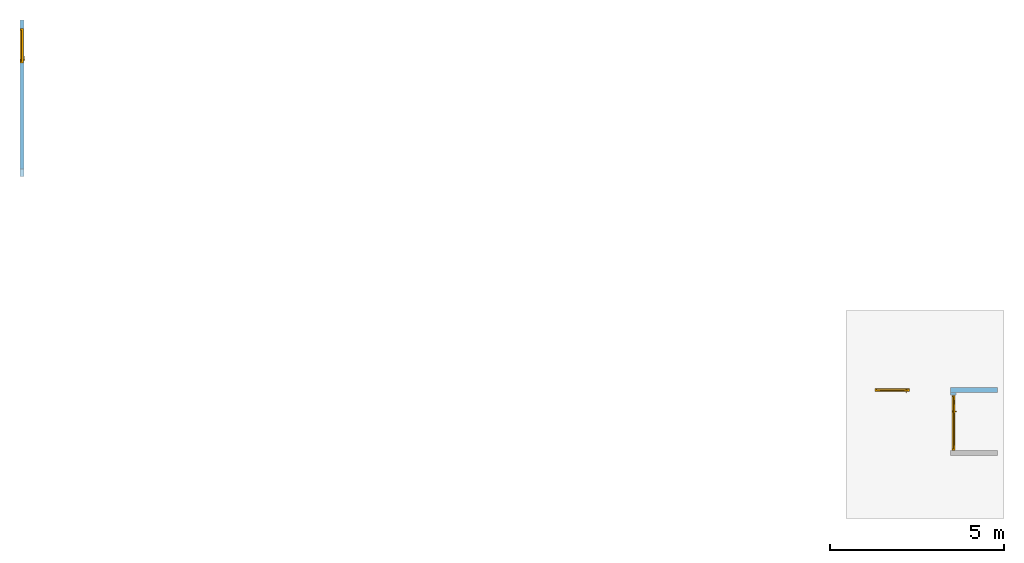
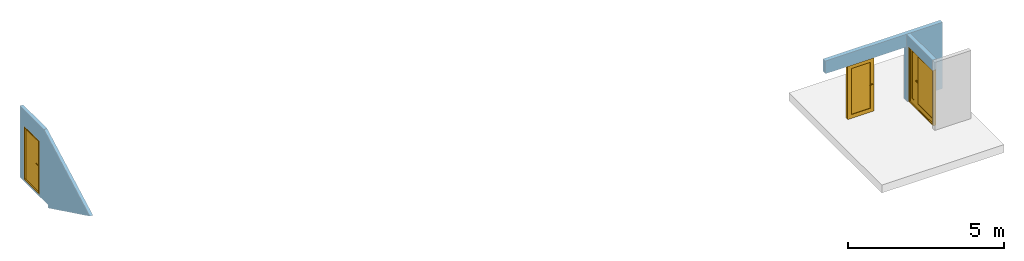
"""IFC2X3 building model written with IfcOpenShell, lengths in millimetres."""

import ifcopenshell
import ifcopenshell.guid

model = None  # the IFC model being written
_history = None  # IfcOwnerHistory: only IFC2X3 demands one
_inside = {}  # id of a spatial element -> (the spatial element, [elements in it])
_under = {}  # id of a project, library or spatial element -> (it, [spatial elements below it])
_declared = {}  # id of a project -> (the project, [libraries it declares])
_typed = {}  # id of a type object -> (the type object, [elements of that type])
_made_of = {}  # id of a material, layer set ... -> (it, [elements and type objects made of it])


def new_model(schema):
    """Start an empty IFC model of exactly this schema.

    Asked for "IFC4X3", IfcOpenShell would pick the latest addendum, in which some entities
    have other attributes; the version numbers below select the first issue.
    IFC2X3 requires an IfcOwnerHistory on every rooted entity: one is made here for all.
    """
    global model, _history
    if schema == "IFC4X3":
        model = ifcopenshell.file(schema_version=(4, 3, 0, 0))
    else:
        model = ifcopenshell.file(schema=schema)
    _inside.clear()
    _under.clear()
    _declared.clear()
    _typed.clear()
    _made_of.clear()
    _history = None
    if model.schema == "IFC2X3":
        org = make("IfcOrganization", Name="unknown")
        user = make(
            "IfcPersonAndOrganization",
            ThePerson=make("IfcPerson", FamilyName="unknown"),
            TheOrganization=org,
        )
        app = make(
            "IfcApplication",
            ApplicationDeveloper=org,
            Version="unknown",
            ApplicationFullName="unknown",
            ApplicationIdentifier="unknown",
        )
        _history = make(
            "IfcOwnerHistory",
            OwningUser=user,
            OwningApplication=app,
            ChangeAction="ADDED",
            CreationDate=0,
        )
    return model


def make(cls, **values):
    """One entity of the class cls with the attributes given. An attribute that is None is left unset."""
    return model.create_entity(
        cls, **{name: value for name, value in values.items() if value is not None}
    )


def entity(cls, *values):
    """Any entity or typed value of the class cls, its attributes in the order of the schema. None: left unset."""
    e = model.create_entity(cls)
    for i, value in enumerate(values):
        if value is not None:
            e[i] = value
    return e


def rooted(cls, **values):
    """An entity with a GlobalId (a new one), such as an element, a storey or a relation."""
    return make(cls, GlobalId=ifcopenshell.guid.new(), OwnerHistory=_history, **values)


def si_unit(unit_type, name, prefix=None):
    """IfcSIUnit, for example si_unit("LENGTHUNIT", "METRE", prefix="MILLI")."""
    return make("IfcSIUnit", UnitType=unit_type, Prefix=prefix, Name=name)


def converted_unit(unit_type, name, factor, base, dimensions=None, offset=None):
    """IfcConversionBasedUnit, such as the inch: factor (a typed value) times the base unit."""
    return make(
        "IfcConversionBasedUnit"
        if offset is None
        else "IfcConversionBasedUnitWithOffset",
        ConversionOffset=offset,
        Dimensions=None
        if dimensions is None
        else entity("IfcDimensionalExponents", *dimensions),
        UnitType=unit_type,
        Name=name,
        ConversionFactor=make(
            "IfcMeasureWithUnit", ValueComponent=factor, UnitComponent=base
        ),
    )


def derived_unit(unit_type, elements):
    """IfcDerivedUnit: a product of units, each with its exponent."""
    return make(
        "IfcDerivedUnit",
        Elements=[
            make("IfcDerivedUnitElement", Unit=unit, Exponent=power)
            for unit, power in elements
        ],
        UnitType=unit_type,
    )


def assignment(units):
    """IfcUnitAssignment: the units of a project."""
    return None if units is None else make("IfcUnitAssignment", Units=units)


def point(xyz):
    """IfcCartesianPoint."""
    return None if xyz is None else make("IfcCartesianPoint", Coordinates=xyz)


def direction(xyz):
    """IfcDirection."""
    return None if xyz is None else make("IfcDirection", DirectionRatios=xyz)


def frame(location, z_axis=None, x_axis=None):
    """IfcAxis2Placement3D, a coordinate frame: its origin and axes. An axis left out is left unset."""
    return make(
        "IfcAxis2Placement3D",
        Location=point(location),
        Axis=direction(z_axis),
        RefDirection=direction(x_axis),
    )


def frame_2d(location, x_axis=None):
    """IfcAxis2Placement2D, a coordinate frame in the plane: its origin and x axis."""
    return make(
        "IfcAxis2Placement2D", Location=point(location), RefDirection=direction(x_axis)
    )


def origin():
    """The frame at (0, 0, 0) with its axes left unset."""
    return frame((0.0, 0.0, 0.0))


def place(relative_to, where):
    """IfcLocalPlacement: puts the frame where relative to a parent placement (None: the world)."""
    return make(
        "IfcLocalPlacement", PlacementRelTo=relative_to, RelativePlacement=where
    )


def context(
    kind, dimensions, precision=None, world=None, true_north=None, identifier=None
):
    """IfcGeometricRepresentationContext, for example the 3D "Model" context."""
    return make(
        "IfcGeometricRepresentationContext",
        ContextIdentifier=identifier,
        ContextType=kind,
        CoordinateSpaceDimension=dimensions,
        Precision=precision,
        WorldCoordinateSystem=world,
        TrueNorth=true_north,
    )


def subcontext(parent, identifier, kind, view, scale=None):
    """IfcGeometricRepresentationSubContext, for example "Body" below "Model"."""
    return make(
        "IfcGeometricRepresentationSubContext",
        ContextIdentifier=identifier,
        ContextType=kind,
        ParentContext=parent,
        TargetScale=scale,
        TargetView=view,
    )


def project(units=None, contexts=None):
    """IfcProject with its units and contexts."""
    return rooted(
        "IfcProject",
        Name="project",
        RepresentationContexts=contexts,
        UnitsInContext=assignment(units),
    )


def spatial(cls, under=None, at=None, **own):
    """A site, building, storey or space (cls), placed at a placement, below another one or the project."""
    s = rooted(cls, ObjectPlacement=at, **own)
    if under is not None:
        _under.setdefault(under.id(), (under, []))[1].append(s)
    return s


def polyline(points):
    """IfcPolyline through the points."""
    return make("IfcPolyline", Points=[point(p) for p in points])


def profile(cls, at=None, kind="AREA", **sizes):
    """A parametric profile (cls). Its sizes go by their IFC names, for example OverallWidth=200.0."""
    return make(cls, ProfileType=kind, Position=at, **sizes)


def rectangle(**sizes):
    """IfcRectangleProfileDef."""
    return profile("IfcRectangleProfileDef", **sizes)


def outline(outer, holes=None, kind="AREA"):
    """IfcArbitraryClosedProfileDef: a profile drawn as a closed curve; with holes, ...WithVoids."""
    if holes is None:
        return make("IfcArbitraryClosedProfileDef", ProfileType=kind, OuterCurve=outer)
    return make(
        "IfcArbitraryProfileDefWithVoids",
        ProfileType=kind,
        OuterCurve=outer,
        InnerCurves=holes,
    )


def extrude(swept, where, along, depth):
    """IfcExtrudedAreaSolid: the profile swept, set in the frame where, extruded along a direction by depth."""
    return make(
        "IfcExtrudedAreaSolid",
        SweptArea=swept,
        Position=where,
        ExtrudedDirection=direction(along),
        Depth=depth,
    )


def clip(a, b, op="DIFFERENCE"):
    """IfcBooleanClippingResult: the solid a cut by the half space b."""
    return make(
        "IfcBooleanClippingResult", Operator=op, FirstOperand=a, SecondOperand=b
    )


def halfspace(plane, agree):
    """IfcHalfSpaceSolid: all space on one side of the plane z = 0 of the frame plane."""
    return make(
        "IfcHalfSpaceSolid",
        BaseSurface=make("IfcPlane", Position=plane),
        AgreementFlag=agree,
    )


def faces_of(points, faces, orient=None, outer=None):
    """IfcFace entities. A face is a list of loops; a loop is a list of indices into points, from 0.

    orient and outer hold one flag for each loop. By default every Orientation is true, the
    first loop of a face is its IfcFaceOuterBound and the others are IfcFaceBound.
    """
    made = []
    for i, loops in enumerate(faces):
        bounds = []
        for j, loop in enumerate(loops):
            is_outer = j == 0 if outer is None else outer[i][j]
            bounds.append(
                make(
                    "IfcFaceOuterBound" if is_outer else "IfcFaceBound",
                    Bound=make("IfcPolyLoop", Polygon=[points[k] for k in loop]),
                    Orientation=True if orient is None else orient[i][j],
                )
            )
        made.append(make("IfcFace", Bounds=bounds))
    return made


def faceted_brep(points, faces, orient=None, outer=None, voids=None):
    """IfcFacetedBrep: a solid bounded by flat faces; with voids (closed shells), ...WithVoids."""
    shared = [point(p) for p in points]
    hull = make("IfcClosedShell", CfsFaces=faces_of(shared, faces, orient, outer))
    if voids is None:
        return make("IfcFacetedBrep", Outer=hull)
    return make(
        "IfcFacetedBrepWithVoids",
        Outer=hull,
        Voids=[
            make(cls, CfsFaces=faces_of(shared, fs, o, b)) for cls, fs, o, b in voids
        ],
    )


def shape(context_of_items, identifier, shape_type, items):
    """IfcShapeRepresentation: the items that make up one representation, for example the "Body"."""
    return make(
        "IfcShapeRepresentation",
        ContextOfItems=context_of_items,
        RepresentationIdentifier=identifier,
        RepresentationType=shape_type,
        Items=items,
    )


def source(mapping_origin, context_of_items, identifier, shape_type, items):
    """IfcRepresentationMap: a shape defined once, which mapped items show again and again."""
    return make(
        "IfcRepresentationMap",
        MappingOrigin=mapping_origin,
        MappedRepresentation=shape(context_of_items, identifier, shape_type, items),
    )


def transform(
    local_origin,
    x_axis=None,
    y_axis=None,
    z_axis=None,
    scale=None,
    scale2=None,
    scale3=None,
    uniform=True,
):
    """IfcCartesianTransformationOperator3D, or its non-uniform kind. x_axis, y_axis, z_axis: its Axis1, 2, 3."""
    if uniform:
        return make(
            "IfcCartesianTransformationOperator3D",
            Axis1=direction(x_axis),
            Axis2=direction(y_axis),
            LocalOrigin=point(local_origin),
            Scale=scale,
            Axis3=direction(z_axis),
        )
    return make(
        "IfcCartesianTransformationOperator3DnonUniform",
        Axis1=direction(x_axis),
        Axis2=direction(y_axis),
        LocalOrigin=point(local_origin),
        Scale=scale,
        Axis3=direction(z_axis),
        Scale2=scale2,
        Scale3=scale3,
    )


def mapped(mapping_source, mapping_target):
    """IfcMappedItem: shows the shape of a source again, moved by a transform."""
    return make(
        "IfcMappedItem", MappingSource=mapping_source, MappingTarget=mapping_target
    )


def material(Name=None, Category=None):
    """IfcMaterial."""
    return make("IfcMaterial", Name=Name, Category=Category)


def material_list(materials):
    """IfcMaterialList."""
    return make("IfcMaterialList", Materials=materials)


def layer(
    of_material, thickness, ventilated=None, Name=None, Category=None, Priority=None
):
    """IfcMaterialLayer: one layer of a wall or slab, of a material (None: an air gap)."""
    return make(
        "IfcMaterialLayer",
        Material=of_material,
        LayerThickness=thickness,
        IsVentilated=ventilated,
        Name=Name,
        Category=Category,
        Priority=Priority,
    )


def layer_set(layers, Name=None):
    """IfcMaterialLayerSet."""
    return make("IfcMaterialLayerSet", MaterialLayers=layers, LayerSetName=Name)


def layer_usage(for_layer_set, set_direction, sense, offset, extent=None):
    """IfcMaterialLayerSetUsage: how a layer set lies in its element."""
    return make(
        "IfcMaterialLayerSetUsage",
        ForLayerSet=for_layer_set,
        LayerSetDirection=set_direction,
        DirectionSense=sense,
        OffsetFromReferenceLine=offset,
        ReferenceExtent=extent,
    )


def made_of(thing, what):
    """Note that an element or type object is made of a material, layer set ...; save() writes the relation."""
    if what is not None:
        _made_of.setdefault(what.id(), (what, []))[1].append(thing)
    return thing


def type_object(cls, material=None, **own):
    """A type object (cls), such as IfcWallType, which elements share."""
    return made_of(rooted(cls, **own), material)


def type_shapes(of_type, sources):
    """Give a type object the sources (RepresentationMaps) that its elements show as mapped items."""
    of_type.RepresentationMaps = sources


def element(
    cls,
    number,
    at=None,
    inside=None,
    cuts=None,
    type_object=None,
    material=None,
    context=None,
    identifier="Body",
    shape_type=None,
    held_by="IfcProductDefinitionShape",
    body=None,
    shapes=None,
    **own,
):
    """One element of the class cls, such as IfcWall. Its Tag is "e" and its number.

    at: its placement. inside: the storey or other place that contains it. cuts: it is an
    opening in that element (IfcRelVoidsElement). A single representation is given by context,
    identifier, shape_type and body (its items); several are given by shapes. held_by: the class
    of the entity that holds the representations. save() writes the other relations.
    """
    e = rooted(cls, Tag="e%d" % number, ObjectPlacement=at, **own)
    if body is not None:
        shapes = [shape(context, identifier, shape_type, body)]
    if shapes is not None:
        e.Representation = make(held_by, Representations=shapes)
    if inside is not None:
        _inside.setdefault(inside.id(), (inside, []))[1].append(e)
    if cuts is not None:
        rooted(
            "IfcRelVoidsElement", RelatingBuildingElement=cuts, RelatedOpeningElement=e
        )
    if type_object is not None:
        _typed.setdefault(type_object.id(), (type_object, []))[1].append(e)
    return made_of(e, material)


def fill(opening, filler):
    """IfcRelFillsElement: the door or window that sits in an opening."""
    return rooted(
        "IfcRelFillsElement",
        RelatingOpeningElement=opening,
        RelatedBuildingElement=filler,
    )


def aggregate(whole, parts):
    """IfcRelAggregates: a whole, such as a stair, and the parts it consists of."""
    return rooted("IfcRelAggregates", RelatingObject=whole, RelatedObjects=parts)


def save(model, path):
    """Write the relations noted so far, then the file.

    IfcRelAggregates (storeys below a building ...), IfcRelContainedInSpatialStructure (elements
    in a storey), IfcRelDefinesByType, IfcRelAssociatesMaterial and IfcRelDeclares: one each for
    every whole, place, type object, material and project.
    """
    for whole, parts in _under.values():
        aggregate(whole, parts)
    for where, things in _inside.values():
        rooted(
            "IfcRelContainedInSpatialStructure",
            RelatedElements=things,
            RelatingStructure=where,
        )
    for kind, things in _typed.values():
        rooted("IfcRelDefinesByType", RelatedObjects=things, RelatingType=kind)
    for what, things in _made_of.values():
        rooted("IfcRelAssociatesMaterial", RelatedObjects=things, RelatingMaterial=what)
    for by, libraries in _declared.values():
        rooted("IfcRelDeclares", RelatingContext=by, RelatedDefinitions=libraries)
    model.write(path)


model = new_model("IFC2X3")

# Units and contexts
model_context = context("Model", 3, precision=0.01, world=origin(), true_north=direction((6.12303176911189e-17, 1.0)))
body_context = subcontext(model_context, "Body", "Model", "MODEL_VIEW")
ifc_project = project(units=[si_unit("LENGTHUNIT", "METRE", prefix="MILLI"), si_unit("AREAUNIT", "SQUARE_METRE"), si_unit("VOLUMEUNIT", "CUBIC_METRE"), converted_unit("PLANEANGLEUNIT", "DEGREE", entity("IfcRatioMeasure", 0.0174532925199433), si_unit("PLANEANGLEUNIT", "RADIAN"), dimensions=[0, 0, 0, 0, 0, 0, 0]), si_unit("MASSUNIT", "GRAM", prefix="KILO"), derived_unit("MASSDENSITYUNIT", [(si_unit("MASSUNIT", "GRAM", prefix="KILO"), 1), (si_unit("LENGTHUNIT", "METRE"), -3)]), si_unit("TIMEUNIT", "SECOND"), si_unit("FREQUENCYUNIT", "HERTZ"), si_unit("THERMODYNAMICTEMPERATUREUNIT", "DEGREE_CELSIUS"), derived_unit("THERMALTRANSMITTANCEUNIT", [(si_unit("MASSUNIT", "GRAM", prefix="KILO"), 1), (si_unit("THERMODYNAMICTEMPERATUREUNIT", "KELVIN"), -1), (si_unit("TIMEUNIT", "SECOND"), -3)]), derived_unit("VOLUMETRICFLOWRATEUNIT", [(si_unit("LENGTHUNIT", "METRE"), 3), (si_unit("TIMEUNIT", "SECOND"), -1)]), si_unit("ELECTRICCURRENTUNIT", "AMPERE"), si_unit("ELECTRICVOLTAGEUNIT", "VOLT"), si_unit("POWERUNIT", "WATT"), si_unit("FORCEUNIT", "NEWTON", prefix="KILO"), si_unit("ILLUMINANCEUNIT", "LUX"), si_unit("LUMINOUSFLUXUNIT", "LUMEN"), si_unit("LUMINOUSINTENSITYUNIT", "CANDELA"), derived_unit("USERDEFINED", [(si_unit("MASSUNIT", "GRAM", prefix="KILO"), -1), (si_unit("LENGTHUNIT", "METRE"), -2), (si_unit("TIMEUNIT", "SECOND"), 3), (si_unit("LUMINOUSFLUXUNIT", "LUMEN"), 1)]), derived_unit("LINEARVELOCITYUNIT", [(si_unit("LENGTHUNIT", "METRE"), 1), (si_unit("TIMEUNIT", "SECOND"), -1)]), si_unit("PRESSUREUNIT", "PASCAL"), derived_unit("USERDEFINED", [(si_unit("LENGTHUNIT", "METRE"), -2), (si_unit("MASSUNIT", "GRAM", prefix="KILO"), 1), (si_unit("TIMEUNIT", "SECOND"), -2)]), derived_unit("LINEARFORCEUNIT", [(si_unit("MASSUNIT", "GRAM", prefix="KILO"), 1), (si_unit("LENGTHUNIT", "METRE"), 1), (si_unit("TIMEUNIT", "SECOND"), -2), (si_unit("LENGTHUNIT", "METRE"), -1)]), derived_unit("PLANARFORCEUNIT", [(si_unit("MASSUNIT", "GRAM", prefix="KILO"), 1), (si_unit("LENGTHUNIT", "METRE"), 1), (si_unit("TIMEUNIT", "SECOND"), -2), (si_unit("LENGTHUNIT", "METRE"), -2)])], contexts=[model_context])

# Site, building, storey
site_placement = place(None, origin())
site = spatial("IfcSite", under=ifc_project, at=site_placement, Name="Default", CompositionType="ELEMENT")
building_placement = place(site_placement, origin())
building = spatial("IfcBuilding", under=site, at=building_placement, Name="SMA ARH", CompositionType="ELEMENT")
storey_1_placement = place(building_placement, frame((0.0, 0.0, -1270.0)))
storey_1 = spatial("IfcBuildingStorey", under=building, at=storey_1_placement, Name="Sissepääs", CompositionType="ELEMENT", Elevation=-1270.0)

# Wall, openings
ifc_material_1 = material(Name="EST. Ehitusplaat. Kipsplaat")
ifc_layer_1 = layer(ifc_material_1, 12.5)
ifc_layer_2 = layer(ifc_material_1, 12.5)
ifc_material_2 = material(Name="EST. Soojustus. Mineraalvill. Default")
ifc_layer_3 = layer(ifc_material_2, 66.0)
ifc_layer_4 = layer(ifc_material_1, 12.5)
ifc_layer_5 = layer(ifc_material_1, 12.5)
ifc_layer_set_1 = layer_set([ifc_layer_1, ifc_layer_2, ifc_layer_3, ifc_layer_4, ifc_layer_5], Name="Basic Wall:SS-05_Kips, 66mm metallkarkass")
ifc_layer_usage_1 = layer_usage(ifc_layer_set_1, "AXIS2", "NEGATIVE", 58.0)
wall_type_1 = type_object("IfcWallType", Name="Basic Wall:SS-05_Kips, 66mm metallkarkass", PredefinedType="STANDARD", material=ifc_layer_set_1)
wall_1_placement = place(storey_1_placement, frame((10221.1462417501, 14300.5336182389, -246.31669515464), z_axis=(0.0, 0.0, 1.0), x_axis=(0.0, -1.0, 0.0)))
wall_1 = element("IfcWallStandardCase", 1, at=wall_1_placement, inside=storey_1, type_object=wall_type_1, material=ifc_layer_usage_1, Name="Basic Wall:SS-05_Kips, 66mm metallkarkass", ObjectType="Basic Wall:SS-05_Kips, 66mm metallkarkass", context=body_context, shape_type="Clipping", body=[
    clip(clip(clip(extrude(rectangle(XDim=4483.62214650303, YDim=116.0, at=frame_2d((2241.81107325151, 5.47117906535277e-13), x_axis=(-1.0, 0.0))), origin(), (0.0, 0.0, 1.0), 2916.31669515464), halfspace(frame((4483.62214650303, -58.0, 1302.14186309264), z_axis=(0.437919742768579, 0.0, -0.899014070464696), x_axis=(0.0, 1.0, 0.0)), False)), halfspace(frame((1541.70566141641, -58.0, 2916.31669515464), z_axis=(0.481030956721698, 0.0, 0.87670360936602), x_axis=(0.0, 1.0, 0.0)), False)), halfspace(frame((1810.42945311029, 0.0, 0.0), z_axis=(-0.0641159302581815, 0.0, -0.99794245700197), x_axis=(0.0, -1.0, 0.0)), False)),
])
opening_1_placement = place(wall_1_placement, origin())
element("IfcOpeningElement", 2, at=opening_1_placement, cuts=wall_1, Name="Basic Wall:SS-05_Kips, 66mm metallkarkass", ObjectType="Opening", context=body_context, shape_type="SweptSolid", body=[
    extrude(outline(polyline([(-77.5444634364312, -603.476484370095), (38.7722317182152, -603.476484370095), (38.7722317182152, 1206.95296874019), (-77.5444634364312, -603.476484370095)])), frame((1206.95296874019, 58.0, 77.5444634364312), z_axis=(0.0, -1.0, 0.0), x_axis=(0.0, 0.0, 1.0)), (0.0, 0.0, 1.0), 116.0),
])
opening_2_placement = place(wall_1_placement, frame((240.529038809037, -58.0, 176.316695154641)))
opening_2 = element("IfcOpeningElement", 3, at=opening_2_placement, cuts=wall_1, Name="SMA_D01, 1-poolne:SU-M-02 - 1000x2100 EI-30:1", ObjectType="Opening", context=body_context, shape_type="SweptSolid", body=[
    extrude(rectangle(XDim=2099.99999999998, YDim=1000.0, at=frame_2d((1049.99999999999, 500.0), x_axis=(1.0, 0.0))), frame((0.0, 0.0, 0.0), z_axis=(0.0, 1.0, 0.0), x_axis=(0.0, 0.0, 1.0)), (0.0, 0.0, 1.0), 116.0),
])

# Storey
storey_2_placement = place(building_placement, origin())
storey_2 = spatial("IfcBuildingStorey", under=building, at=storey_2_placement, Name="1 Korrus", CompositionType="ELEMENT", Elevation=0.0)

# Door
ifc_material_3 = material(Name="EST. Metall. Alumiinium. Värvitud. RAL7023 (Concrete grey)")
ifc_material_4 = material(Name="<Unnamed>")
ifc_material_5 = material(Name="EST. Klaas. 3x. Default")
ifc_material_list_1 = material_list([ifc_material_3, ifc_material_4, ifc_material_4, ifc_material_3, ifc_material_5, ifc_material_3, ifc_material_4])
door_style_1 = type_object("IfcDoorStyle", Name="SMA_D01, 1-poolne:SU-M-02 - 1000x2100 EI-30", ConstructionType="NOTDEFINED", OperationType="SINGLE_SWING_LEFT", ParameterTakesPrecedence=False, Sizeable=False, material=ifc_material_list_1)
shared_shape_1 = source(origin(), body_context, "Body", "Brep", [
    faceted_brep([(890.0, 6.0, 1112.5), (795.0, 6.0, 1112.5), (795.0, 1.0, 1112.5), (915.0, 1.0, 1112.5), (915.0, 44.0, 1112.5), (890.0, 44.0, 1112.5), (890.0, 6.0, 1087.5), (890.0, 44.0, 1087.5), (915.0, 44.0, 1087.5), (915.0, 1.0, 1087.5), (795.0, 1.0, 1087.5), (795.0, 6.0, 1087.5)], [[[0, 1, 2, 3, 4, 5]], [[6, 7, 8, 9, 10, 11]], [[5, 7, 6, 0]], [[4, 8, 7, 5]], [[3, 9, 8, 4]], [[2, 10, 9, 3]], [[1, 11, 10, 2]], [[0, 6, 11, 1]]]),
    faceted_brep([(877.500000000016, 44.0, 1137.5), (927.500000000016, 44.0, 1137.5), (927.500000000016, 46.0, 1137.5), (877.500000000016, 46.0, 1137.5), (877.500000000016, 44.0, 1017.5), (877.500000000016, 46.0, 1017.5), (927.500000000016, 46.0, 1017.5), (927.500000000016, 44.0, 1017.5)], [[[0, 1, 2, 3]], [[4, 5, 6, 7]], [[3, 5, 4, 0]], [[2, 6, 5, 3]], [[1, 7, 6, 2]], [[0, 4, 7, 1]]]),
    faceted_brep([(890.0, 136.0, 1112.5), (890.0, 98.0, 1112.5), (915.0, 98.0, 1112.5), (915.0, 141.0, 1112.5), (795.0, 141.0, 1112.5), (795.0, 136.0, 1112.5), (890.0, 136.0, 1087.5), (795.0, 136.0, 1087.5), (795.0, 141.0, 1087.5), (915.0, 141.0, 1087.5), (915.0, 98.0, 1087.5), (890.0, 98.0, 1087.5)], [[[0, 1, 2, 3, 4, 5]], [[6, 7, 8, 9, 10, 11]], [[1, 0, 6, 11]], [[2, 1, 11, 10]], [[3, 2, 10, 9]], [[4, 3, 9, 8]], [[5, 4, 8, 7]], [[0, 5, 7, 6]]]),
    faceted_brep([(877.500000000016, 98.0, 1137.5), (877.500000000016, 96.0, 1137.5), (927.500000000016, 96.0, 1137.5), (927.500000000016, 98.0, 1137.5), (877.500000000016, 98.0, 1017.5), (927.500000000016, 98.0, 1017.5), (927.500000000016, 96.0, 1017.5), (877.500000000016, 96.0, 1017.5)], [[[0, 1, 2, 3]], [[4, 5, 6, 7]], [[1, 0, 4, 7]], [[2, 1, 7, 6]], [[3, 2, 6, 5]], [[0, 3, 5, 4]]]),
    faceted_brep([(50.0, 6.0, 30.0), (50.0, 46.0, 30.0), (50.0, 46.0, 20.0), (50.0, 46.0, 0.0), (50.0, 6.0, 0.0), (950.0, 6.0, 30.0), (950.0, 6.0, 0.0), (950.0, 46.0, 0.0), (950.0, 46.0, 20.0), (950.0, 46.0, 30.0), (35.0, 46.0, 0.0), (35.0, 96.0, 0.0), (965.0, 96.0, 0.0), (965.0, 46.0, 0.0), (35.0, 96.0, 20.0), (35.0, 46.0, 20.0), (965.0, 96.0, 20.0), (965.0, 46.0, 20.0)], [[[0, 1, 2, 3, 4]], [[5, 6, 7, 8, 9]], [[4, 6, 5, 0]], [[3, 10, 11, 12, 13, 7, 6, 4]], [[9, 8, 2, 1]], [[0, 5, 9, 1]], [[14, 11, 10, 15]], [[16, 17, 13, 12]], [[15, 2, 8, 17, 16, 14]], [[10, 3, 2, 15]], [[14, 16, 12, 11]], [[17, 8, 7, 13]]]),
    faceted_brep([(10.0, 6.0, 0.0), (10.0, 96.0, 0.0), (35.0, 96.0, 0.0), (35.0, 46.0, 0.0), (50.0, 46.0, 0.0), (50.0, 6.0, 0.0), (50.0, 6.0, 2050.0), (950.0, 6.0, 2050.0), (950.0, 6.0, 0.0), (990.0, 6.0, 0.0), (990.0, 6.0, 2090.0), (10.0, 6.0, 2090.0), (50.0, 46.0, 2050.0), (35.0, 46.0, 2065.0), (965.0, 46.0, 2065.0), (965.0, 46.0, 0.0), (950.0, 46.0, 0.0), (950.0, 46.0, 2050.0), (35.0, 96.0, 2065.0), (10.0, 96.0, 2090.0), (990.0, 96.0, 2090.0), (990.0, 96.0, 0.0), (965.0, 96.0, 0.0), (965.0, 96.0, 2065.0)], [[[0, 1, 2, 3, 4, 5]], [[5, 6, 7, 8, 9, 10, 11, 0]], [[4, 12, 6, 5]], [[3, 13, 14, 15, 16, 17, 12, 4]], [[2, 18, 13, 3]], [[1, 19, 20, 21, 22, 23, 18, 2]], [[0, 11, 19, 1]], [[9, 21, 20, 10]], [[8, 16, 15, 22, 21, 9]], [[7, 17, 16, 8]], [[14, 23, 22, 15]], [[6, 12, 17, 7]], [[13, 18, 23, 14]], [[10, 20, 19, 11]]]),
    faceted_brep([(965.0, 46.0, 2065.0), (35.0, 46.0, 2065.0), (35.0, 46.0, 20.0), (965.0, 46.0, 20.0), (965.0, 96.0, 2065.0), (965.0, 96.0, 20.0), (35.0, 96.0, 20.0), (35.0, 96.0, 2065.0)], [[[0, 1, 2, 3]], [[4, 5, 6, 7]], [[3, 5, 4, 0]], [[2, 6, 5, 3]], [[1, 7, 6, 2]], [[0, 4, 7, 1]]]),
])
type_shapes(door_style_1, [shared_shape_1])
door_1_placement = place(opening_2_placement, origin())
door_1 = element("IfcDoor", 4, at=door_1_placement, inside=storey_2, type_object=door_style_1, material=ifc_material_3, Name="SMA_D01, 1-poolne:SU-M-02 - 1000x2100 EI-30", ObjectType="SMA_D01, 1-poolne:SU-M-02 - 1000x2100 EI-30", OverallHeight=2099.99999999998, OverallWidth=1000.0, context=body_context, shape_type="MappedRepresentation", body=[
    mapped(shared_shape_1, transform((0.0, 0.0, 0.0), scale=1.0)),
])

fill(opening_2, door_1)

# Wall, openings, door
ifc_layer_6 = layer(ifc_material_1, 12.5)
ifc_layer_7 = layer(ifc_material_1, 12.5)
ifc_material_6 = material(Name="EST. Õhkvahe. Roov. Kipsplaadi alusroov. Vertikaalne")
ifc_layer_8 = layer(ifc_material_6, 95.0)
ifc_layer_9 = layer(ifc_material_1, 12.5)
ifc_layer_10 = layer(ifc_material_1, 12.5)
ifc_layer_set_2 = layer_set([ifc_layer_6, ifc_layer_7, ifc_layer_8, ifc_layer_9, ifc_layer_10], Name="Basic Wall:SS-04_Kips, 95mm metallkarkass")
ifc_layer_usage_2 = layer_usage(ifc_layer_set_2, "AXIS2", "NEGATIVE", 72.5)
wall_type_2 = type_object("IfcWallType", Name="Basic Wall:SS-04_Kips, 95mm metallkarkass", PredefinedType="STANDARD", material=ifc_layer_set_2)
wall_2_placement = place(storey_1_placement, frame((33865.0, 3690.0, 0.0)))
wall_2 = element("IfcWallStandardCase", 5, at=wall_2_placement, inside=storey_1, type_object=wall_type_2, material=ifc_layer_usage_2, Name="Basic Wall:SS-04_Kips, 95mm metallkarkass", ObjectType="Basic Wall:SS-04_Kips, 95mm metallkarkass", context=body_context, shape_type="SweptSolid", body=[
    extrude(rectangle(XDim=4350.0, YDim=145.0, at=frame_2d((2175.0, 4.2632564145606e-14), x_axis=(-1.0, 0.0))), origin(), (0.0, 0.0, 1.0), 2600.0),
])
opening_3_placement = place(wall_2_placement, origin())
element("IfcOpeningElement", 6, at=opening_3_placement, cuts=wall_2, Name="Basic Wall:SS-04_Kips, 95mm metallkarkass", ObjectType="Opening", context=body_context, shape_type="SweptSolid", body=[
    extrude(rectangle(XDim=2099.99999999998, YDim=1180.0, at=frame_2d((0.0, 0.0), x_axis=(0.0, 1.0))), frame((2415.0, -224.900000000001, 1050.0), z_axis=(0.0, 1.0, 0.0), x_axis=(-1.0, 0.0, 0.0)), (0.0, 0.0, 1.0), 449.8),
])
opening_4_placement = place(wall_2_placement, origin())
element("IfcOpeningElement", 7, at=opening_4_placement, cuts=wall_2, Name="Basic Wall:SS-04_Kips, 95mm metallkarkass", ObjectType="Opening", context=body_context, shape_type="SweptSolid", body=[
    extrude(rectangle(XDim=2099.99999999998, YDim=824.999999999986, at=frame_2d((0.0, 0.0), x_axis=(0.0, 1.0))), frame((412.499999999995, -224.900000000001, 1050.0), z_axis=(0.0, 1.0, 0.0), x_axis=(-1.0, 0.0, 0.0)), (0.0, 0.0, 1.0), 449.8),
])
opening_5_placement = place(wall_2_placement, origin())
element("IfcOpeningElement", 8, at=opening_5_placement, cuts=wall_2, Name="Basic Wall:SS-04_Kips, 95mm metallkarkass", ObjectType="Opening", context=body_context, shape_type="SweptSolid", body=[
    extrude(rectangle(XDim=299.999999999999, YDim=540.000000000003, at=frame_2d((2.1600499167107e-12, 0.0), x_axis=(0.0, 1.0))), frame((2685.0, 72.5000000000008, 1050.0), z_axis=(0.0, -1.0, 0.0), x_axis=(1.0, 0.0, 0.0)), (0.0, 0.0, 1.0), 145.0),
])
opening_6_placement = place(wall_2_placement, frame((1825.0, 72.5000000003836, 0.0)))
opening_6 = element("IfcOpeningElement", 9, at=opening_6_placement, cuts=wall_2, Name="SMA_D01, 1-poolne:SU-P-03 - 1000x2100:1", ObjectType="Opening", context=body_context, shape_type="SweptSolid", body=[
    extrude(rectangle(XDim=2099.99999999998, YDim=1000.0, at=frame_2d((1049.99999999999, 500.0), x_axis=(1.0, 0.0))), frame((0.0, 0.0, 0.0), z_axis=(0.0, -1.0, 0.0), x_axis=(0.0, 0.0, 1.0)), (0.0, 0.0, 1.0), 145.0),
])
ifc_material_7 = material(Name="__Aknaraam")
ifc_material_list_2 = material_list([ifc_material_3, ifc_material_7, ifc_material_5])
ifc_material_list_3 = material_list([ifc_material_4, ifc_material_5, ifc_material_4, ifc_material_7, ifc_material_7, ifc_material_4, ifc_material_3])
door_style_2 = type_object("IfcDoorStyle", Name="SMA_D01, 1-poolne:SU-P-03 - 1000x2100", ConstructionType="NOTDEFINED", OperationType="NOTDEFINED", ParameterTakesPrecedence=False, Sizeable=False, material=ifc_material_list_3)
shared_shape_2 = source(origin(), body_context, "Body", "Brep", [
    faceted_brep([(110.0, 35.0, 1112.5), (110.0, 73.0, 1112.5), (85.0, 73.0, 1112.5), (85.0, 30.0, 1112.5), (205.0, 30.0, 1112.5), (205.0, 35.0, 1112.5), (110.0, 35.0, 1087.5), (205.0, 35.0, 1087.5), (205.0, 30.0, 1087.5), (85.0, 30.0, 1087.5), (85.0, 73.0, 1087.5), (110.0, 73.0, 1087.5)], [[[0, 1, 2, 3, 4, 5]], [[6, 7, 8, 9, 10, 11]], [[1, 0, 6, 11]], [[2, 1, 11, 10]], [[3, 2, 10, 9]], [[4, 3, 9, 8]], [[5, 4, 8, 7]], [[0, 5, 7, 6]]]),
    faceted_brep([(122.499999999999, 73.0, 1137.5), (122.499999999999, 75.0, 1137.5), (72.4999999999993, 75.0, 1137.5), (72.4999999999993, 73.0, 1137.5), (122.499999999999, 73.0, 1017.5), (72.4999999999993, 73.0, 1017.5), (72.4999999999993, 75.0, 1017.5), (122.499999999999, 75.0, 1017.5)], [[[0, 1, 2, 3]], [[4, 5, 6, 7]], [[1, 0, 4, 7]], [[2, 1, 7, 6]], [[3, 2, 6, 5]], [[0, 3, 5, 4]]]),
    faceted_brep([(110.0, 165.0, 1112.5), (205.0, 165.0, 1112.5), (205.0, 170.0, 1112.5), (85.0, 170.0, 1112.5), (85.0, 127.0, 1112.5), (110.0, 127.0, 1112.5), (110.0, 165.0, 1087.5), (110.0, 127.0, 1087.5), (85.0, 127.0, 1087.5), (85.0, 170.0, 1087.5), (205.0, 170.0, 1087.5), (205.0, 165.0, 1087.5)], [[[0, 1, 2, 3, 4, 5]], [[6, 7, 8, 9, 10, 11]], [[5, 7, 6, 0]], [[4, 8, 7, 5]], [[3, 9, 8, 4]], [[2, 10, 9, 3]], [[1, 11, 10, 2]], [[0, 6, 11, 1]]]),
    faceted_brep([(122.499999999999, 127.0, 1137.5), (72.4999999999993, 127.0, 1137.5), (72.4999999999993, 125.0, 1137.5), (122.499999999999, 125.0, 1137.5), (122.499999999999, 127.0, 1017.5), (122.499999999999, 125.0, 1017.5), (72.4999999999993, 125.0, 1017.5), (72.4999999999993, 127.0, 1017.5)], [[[0, 1, 2, 3]], [[4, 5, 6, 7]], [[3, 5, 4, 0]], [[2, 6, 5, 3]], [[1, 7, 6, 2]], [[0, 4, 7, 1]]]),
    faceted_brep([(950.0, 35.0, 30.0), (950.0, 35.0, 0.0), (950.0, 75.0, 0.0), (950.0, 75.0, 20.0), (950.0, 75.0, 30.0), (50.0, 35.0, 30.0), (50.0, 75.0, 30.0), (50.0, 75.0, 20.0), (50.0, 75.0, 0.0), (50.0, 35.0, 0.0), (35.0, 75.0, 0.0), (35.0, 125.0, 0.0), (965.0, 125.0, 0.0), (965.0, 75.0, 0.0), (965.0, 125.0, 20.0), (965.0, 75.0, 20.0), (35.0, 125.0, 20.0), (35.0, 75.0, 20.0)], [[[0, 1, 2, 3, 4]], [[5, 6, 7, 8, 9]], [[1, 0, 5, 9]], [[2, 1, 9, 8, 10, 11, 12, 13]], [[6, 4, 3, 7]], [[0, 4, 6, 5]], [[14, 15, 13, 12]], [[16, 11, 10, 17]], [[15, 14, 16, 17, 7, 3]], [[13, 15, 3, 2]], [[14, 12, 11, 16]], [[17, 10, 8, 7]]]),
    faceted_brep([(990.0, 35.0, 0.0), (950.0, 35.0, 0.0), (950.0, 75.0, 0.0), (965.0, 75.0, 0.0), (965.0, 125.0, 0.0), (990.0, 125.0, 0.0), (990.0, 35.0, 2090.0), (10.0, 35.0, 2090.0), (10.0, 35.0, 0.0), (50.0, 35.0, 0.0), (50.0, 35.0, 2050.0), (950.0, 35.0, 2050.0), (950.0, 75.0, 2050.0), (50.0, 75.0, 2050.0), (50.0, 75.0, 0.0), (35.0, 75.0, 0.0), (35.0, 75.0, 2065.0), (965.0, 75.0, 2065.0), (965.0, 125.0, 2065.0), (35.0, 125.0, 2065.0), (35.0, 125.0, 0.0), (10.0, 125.0, 0.0), (10.0, 125.0, 2090.0), (990.0, 125.0, 2090.0)], [[[0, 1, 2, 3, 4, 5]], [[1, 0, 6, 7, 8, 9, 10, 11]], [[2, 1, 11, 12]], [[3, 2, 12, 13, 14, 15, 16, 17]], [[4, 3, 17, 18]], [[5, 4, 18, 19, 20, 21, 22, 23]], [[0, 5, 23, 6]], [[8, 7, 22, 21]], [[9, 8, 21, 20, 15, 14]], [[10, 9, 14, 13]], [[16, 15, 20, 19]], [[11, 10, 13, 12]], [[17, 16, 19, 18]], [[7, 6, 23, 22]]]),
    faceted_brep([(850.0, 90.0, 150.0), (850.0, 90.0, 1950.0), (150.0, 90.0, 1950.0), (150.0, 90.0, 150.0), (850.0, 110.0, 150.0), (150.0, 110.0, 150.0), (150.0, 110.0, 1950.0), (850.0, 110.0, 1950.0)], [[[0, 1, 2, 3]], [[4, 5, 6, 7]], [[1, 0, 4, 7]], [[2, 1, 7, 6]], [[3, 2, 6, 5]], [[0, 3, 5, 4]]]),
    faceted_brep([(965.0, 75.0, 20.0), (965.0, 75.0, 2065.0), (35.0, 75.0, 2065.0), (35.0, 75.0, 20.0), (150.0, 75.0, 150.0), (150.0, 75.0, 1950.0), (850.0, 75.0, 1950.0), (850.0, 75.0, 150.0), (965.0, 125.0, 20.0), (35.0, 125.0, 20.0), (35.0, 125.0, 2065.0), (965.0, 125.0, 2065.0), (150.0, 125.0, 1950.0), (150.0, 125.0, 150.0), (850.0, 125.0, 150.0), (850.0, 125.0, 1950.0)], [[[0, 1, 2, 3], [4, 5, 6, 7]], [[8, 9, 10, 11], [12, 13, 14, 15]], [[1, 0, 8, 11]], [[2, 1, 11, 10]], [[3, 2, 10, 9]], [[0, 3, 9, 8]], [[12, 5, 4, 13]], [[13, 4, 7, 14]], [[14, 7, 6, 15]], [[5, 12, 15, 6]]]),
])
type_shapes(door_style_2, [shared_shape_2])
door_2_placement = place(opening_6_placement, frame((0.0, 0.0, 0.0), z_axis=(0.0, 0.0, 1.0), x_axis=(-1.0, 0.0, 0.0)))
door_2 = element("IfcDoor", 10, at=door_2_placement, inside=storey_1, type_object=door_style_2, material=ifc_material_list_2, Name="SMA_D01, 1-poolne:SU-P-03 - 1000x2100", ObjectType="SMA_D01, 1-poolne:SU-P-03 - 1000x2100", OverallHeight=2099.99999999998, OverallWidth=999.999999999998, context=body_context, shape_type="MappedRepresentation", body=[
    mapped(shared_shape_2, transform((0.0, 0.0, 0.0), scale=1.0)),
])
fill(opening_6, door_2)

# Wall, opening, door
ifc_layer_usage_3 = layer_usage(ifc_layer_set_2, "AXIS2", "NEGATIVE", 72.5)
wall_3_placement = place(storey_1_placement, frame((36942.5000000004, 1942.49999999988, 0.0), z_axis=(0.0, 0.0, 1.0), x_axis=(0.0, 1.0, 0.0)))
wall_3 = element("IfcWallStandardCase", 11, at=wall_3_placement, inside=storey_1, type_object=wall_type_2, material=ifc_layer_usage_3, Name="Basic Wall:SS-04_Kips, 95mm metallkarkass", ObjectType="Basic Wall:SS-04_Kips, 95mm metallkarkass", context=body_context, shape_type="SweptSolid", body=[
    extrude(rectangle(XDim=1675.0000000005, YDim=145.000000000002, at=frame_2d((837.500000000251, -8.5265128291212e-14), x_axis=(-1.0, 0.0))), origin(), (0.0, 0.0, 1.0), 2600.0),
])
opening_7_placement = place(wall_3_placement, frame((1600.0, 72.5000000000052, 0.0)))
opening_7 = element("IfcOpeningElement", 12, at=opening_7_placement, cuts=wall_3, Name="SMA_D02, 2-poolne:SU-AL-04 - 1600x2100:1", ObjectType="Opening", context=body_context, shape_type="SweptSolid", body=[
    extrude(rectangle(XDim=2189.99999999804, YDim=1600.0, at=frame_2d((1094.99999999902, 800.0), x_axis=(1.0, 0.0))), frame((0.0, 0.0, 0.0), z_axis=(0.0, -1.0, 0.0), x_axis=(0.0, 0.0, 1.0)), (0.0, 0.0, 1.0), 145.0),
])
ifc_material_8 = material(Name="EST. Metall. Plekk. Värvitud. RAL7023 (Concrete grey)")
ifc_material_list_4 = material_list([ifc_material_8, ifc_material_5])
ifc_material_list_5 = material_list([ifc_material_8, ifc_material_8, ifc_material_4, ifc_material_5, ifc_material_4, ifc_material_4, ifc_material_8])
door_style_3 = type_object("IfcDoorStyle", Name="SMA_D02, 2-poolne:SU-AL-04 - 1600x2100", ConstructionType="NOTDEFINED", OperationType="NOTDEFINED", ParameterTakesPrecedence=False, Sizeable=False, material=ifc_material_list_5)
shared_shape_3 = source(origin(), body_context, "Body", "Brep", [
    faceted_brep([(487.499999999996, 35.0, 1100.0), (487.499999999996, 73.0, 1100.0), (462.499999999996, 73.0, 1100.0), (462.499999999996, 30.0, 1100.0), (582.499999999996, 30.0, 1100.0), (582.499999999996, 35.0, 1100.0), (487.499999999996, 35.0, 1075.0), (582.499999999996, 35.0, 1075.0), (582.499999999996, 30.0, 1075.0), (462.499999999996, 30.0, 1075.0), (462.499999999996, 73.0, 1075.0), (487.499999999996, 73.0, 1075.0)], [[[0, 1, 2, 3, 4, 5]], [[6, 7, 8, 9, 10, 11]], [[1, 0, 6, 11]], [[2, 1, 11, 10]], [[3, 2, 10, 9]], [[4, 3, 9, 8]], [[5, 4, 8, 7]], [[0, 5, 7, 6]]]),
    faceted_brep([(500.0, 73.0, 1125.0), (500.0, 75.0, 1125.0), (450.0, 75.0, 1125.0), (450.0, 73.0, 1125.0), (500.0, 73.0, 1005.0), (450.0, 73.0, 1005.0), (450.0, 75.0, 1005.0), (500.0, 75.0, 1005.0)], [[[0, 1, 2, 3]], [[4, 5, 6, 7]], [[1, 0, 4, 7]], [[2, 1, 7, 6]], [[3, 2, 6, 5]], [[0, 3, 5, 4]]]),
    faceted_brep([(487.499999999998, 165.0, 1100.0), (582.499999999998, 165.0, 1100.0), (582.499999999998, 170.0, 1100.0), (462.499999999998, 170.0, 1100.0), (462.499999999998, 127.0, 1100.0), (487.499999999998, 127.0, 1100.0), (487.499999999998, 165.0, 1075.0), (487.499999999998, 127.0, 1075.0), (462.499999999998, 127.0, 1075.0), (462.499999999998, 170.0, 1075.0), (582.499999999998, 170.0, 1075.0), (582.499999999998, 165.0, 1075.0)], [[[0, 1, 2, 3, 4, 5]], [[6, 7, 8, 9, 10, 11]], [[5, 7, 6, 0]], [[4, 8, 7, 5]], [[3, 9, 8, 4]], [[2, 10, 9, 3]], [[1, 11, 10, 2]], [[0, 6, 11, 1]]]),
    faceted_brep([(500.0, 127.0, 1125.0), (450.0, 127.0, 1125.0), (450.0, 125.0, 1125.0), (500.0, 125.0, 1125.0), (500.0, 127.0, 1005.0), (500.0, 125.0, 1005.0), (450.0, 125.0, 1005.0), (450.0, 127.0, 1005.0)], [[[0, 1, 2, 3]], [[4, 5, 6, 7]], [[3, 5, 4, 0]], [[2, 6, 5, 3]], [[1, 7, 6, 2]], [[0, 4, 7, 1]]]),
    faceted_brep([(1550.0, 35.0, 30.0), (1550.0, 35.0, 0.0), (1550.0, 75.0, 0.0), (1550.0, 75.0, 20.0), (1550.0, 75.0, 30.0), (50.0, 35.0, 30.0), (50.0, 75.0, 30.0), (50.0, 75.0, 20.0), (50.0, 75.0, 0.0), (50.0, 35.0, 0.0), (35.0, 75.0, 0.0), (35.0, 125.0, 0.0), (1565.0, 125.0, 0.0), (1565.0, 75.0, 0.0), (1565.0, 125.0, 20.0), (1565.0, 75.0, 20.0), (35.0, 125.0, 20.0), (35.0, 75.0, 20.0)], [[[0, 1, 2, 3, 4]], [[5, 6, 7, 8, 9]], [[1, 0, 5, 9]], [[2, 1, 9, 8, 10, 11, 12, 13]], [[6, 4, 3, 7]], [[0, 4, 6, 5]], [[14, 15, 13, 12]], [[16, 11, 10, 17]], [[15, 14, 16, 17, 7, 3]], [[13, 15, 3, 2]], [[14, 12, 11, 16]], [[17, 10, 8, 7]]]),
    faceted_brep([(1590.0, 35.0, 0.0), (1550.0, 35.0, 0.0), (1550.0, 75.0, 0.0), (1565.0, 75.0, 0.0), (1565.0, 125.0, 0.0), (1590.0, 125.0, 0.0), (1590.0, 35.0, 2180.0), (10.0, 35.0, 2180.0), (10.0, 35.0, 0.0), (50.0, 35.0, 0.0), (50.0, 35.0, 2140.0), (1550.0, 35.0, 2140.0), (1550.0, 75.0, 2140.0), (50.0, 75.0, 2140.0), (50.0, 75.0, 0.0), (35.0, 75.0, 0.0), (35.0, 75.0, 2155.0), (1565.0, 75.0, 2155.0), (1565.0, 125.0, 2155.0), (35.0, 125.0, 2155.0), (35.0, 125.0, 0.0), (10.0, 125.0, 0.0), (10.0, 125.0, 2180.0), (1590.0, 125.0, 2180.0)], [[[0, 1, 2, 3, 4, 5]], [[1, 0, 6, 7, 8, 9, 10, 11]], [[2, 1, 11, 12]], [[3, 2, 12, 13, 14, 15, 16, 17]], [[4, 3, 17, 18]], [[5, 4, 18, 19, 20, 21, 22, 23]], [[0, 5, 23, 6]], [[8, 7, 22, 21]], [[9, 8, 21, 20, 15, 14]], [[10, 9, 14, 13]], [[16, 15, 20, 19]], [[11, 10, 13, 12]], [[17, 16, 19, 18]], [[7, 6, 23, 22]]]),
    faceted_brep([(145.0, 90.0, 200.0), (280.0, 90.0, 200.0), (280.0, 90.0, 2070.0), (145.0, 90.0, 2070.0), (145.0, 110.0, 200.0), (145.0, 110.0, 2070.0), (280.0, 110.0, 2070.0), (280.0, 110.0, 200.0)], [[[0, 1, 2, 3]], [[4, 5, 6, 7]], [[1, 0, 4, 7]], [[2, 1, 7, 6]], [[3, 2, 6, 5]], [[0, 3, 5, 4]]]),
    faceted_brep([(520.0, 90.0, 200.0), (1455.0, 90.0, 200.0), (1455.0, 90.0, 2070.0), (520.0, 90.0, 2070.0), (520.0, 110.0, 200.0), (520.0, 110.0, 2070.0), (1455.0, 110.0, 2070.0), (1455.0, 110.0, 200.0)], [[[0, 1, 2, 3]], [[4, 5, 6, 7]], [[1, 0, 4, 7]], [[2, 1, 7, 6]], [[3, 2, 6, 5]], [[0, 3, 5, 4]]]),
    faceted_brep([(400.0, 75.0, 2155.0), (35.0, 75.0, 2155.0), (35.0, 75.0, 20.0), (400.0, 75.0, 20.0), (145.0, 75.0, 200.0), (145.0, 75.0, 2070.0), (280.0, 75.0, 2070.0), (280.0, 75.0, 200.0), (400.0, 125.0, 2155.0), (400.0, 125.0, 20.0), (35.0, 125.0, 20.0), (35.0, 125.0, 2155.0), (145.0, 125.0, 2070.0), (145.0, 125.0, 200.0), (280.0, 125.0, 200.0), (280.0, 125.0, 2070.0)], [[[0, 1, 2, 3], [4, 5, 6, 7]], [[8, 9, 10, 11], [12, 13, 14, 15]], [[1, 0, 8, 11]], [[2, 1, 11, 10]], [[3, 2, 10, 9]], [[0, 3, 9, 8]], [[12, 5, 4, 13]], [[13, 4, 7, 14]], [[14, 7, 6, 15]], [[5, 12, 15, 6]]]),
    faceted_brep([(400.0, 75.0, 2155.0), (400.0, 75.0, 20.0), (1565.0, 75.0, 20.0), (1565.0, 75.0, 2155.0), (520.0, 75.0, 200.0), (520.0, 75.0, 2070.0), (1455.0, 75.0, 2070.0), (1455.0, 75.0, 200.0), (400.0, 125.0, 2155.0), (1565.0, 125.0, 2155.0), (1565.0, 125.0, 20.0), (400.0, 125.0, 20.0), (520.0, 125.0, 2070.0), (520.0, 125.0, 200.0), (1455.0, 125.0, 200.0), (1455.0, 125.0, 2070.0)], [[[0, 1, 2, 3], [4, 5, 6, 7]], [[8, 9, 10, 11], [12, 13, 14, 15]], [[1, 0, 8, 11]], [[2, 1, 11, 10]], [[3, 2, 10, 9]], [[0, 3, 9, 8]], [[12, 5, 4, 13]], [[13, 4, 7, 14]], [[14, 7, 6, 15]], [[5, 12, 15, 6]]]),
])
type_shapes(door_style_3, [shared_shape_3])
door_3_placement = place(opening_7_placement, frame((0.0, 0.0, 0.0), z_axis=(0.0, 0.0, 1.0), x_axis=(-1.0, 0.0, 0.0)))
door_3 = element("IfcDoor", 13, at=door_3_placement, inside=storey_1, type_object=door_style_3, material=ifc_material_list_4, Name="SMA_D02, 2-poolne:SU-AL-04 - 1600x2100", ObjectType="SMA_D02, 2-poolne:SU-AL-04 - 1600x2100", OverallHeight=2189.99999999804, OverallWidth=1600.0, context=body_context, shape_type="MappedRepresentation", body=[
    mapped(shared_shape_3, transform((0.0, 0.0, 0.0), scale=1.0)),
])
fill(opening_7, door_3)

save(model, "model.ifc")
